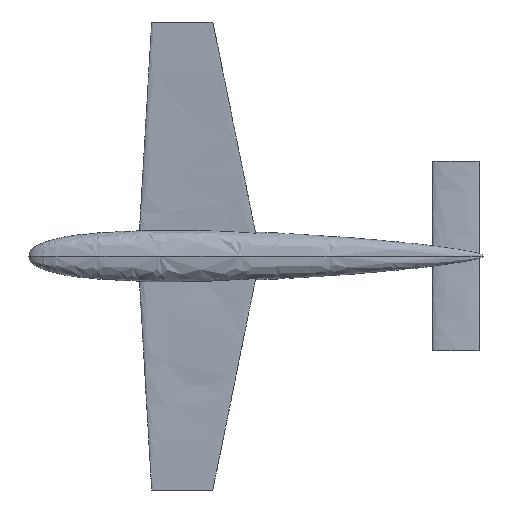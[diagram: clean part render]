
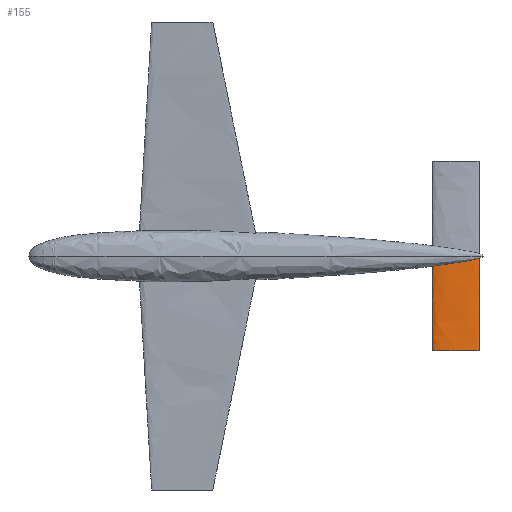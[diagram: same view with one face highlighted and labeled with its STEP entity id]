
A CAD part, front view. The second image highlights one B-rep face of the part: STEP entity #155.
In plain terms, the highlighted face is a extrusion surface.
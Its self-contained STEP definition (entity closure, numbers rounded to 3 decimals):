
#112=SURFACE_OF_LINEAR_EXTRUSION('',#330,#122);
#116=LINE('',#1662,#120);
#117=LINE('',#1663,#121);
#120=VECTOR('',#354,1.);
#121=VECTOR('',#355,1.);
#122=VECTOR('',#356,1.);
#138=FACE_OUTER_BOUND('',#196,.T.);
#155=ADVANCED_FACE('',(#138),#112,.T.);
#196=EDGE_LOOP('',(#234,#235,#236,#237));
#234=ORIENTED_EDGE('',*,*,#301,.F.);
#235=ORIENTED_EDGE('',*,*,#292,.T.);
#236=ORIENTED_EDGE('',*,*,#302,.F.);
#237=ORIENTED_EDGE('',*,*,#300,.F.);
#271=VERTEX_POINT('',#1029);
#272=VERTEX_POINT('',#1030);
#276=VERTEX_POINT('',#1655);
#277=VERTEX_POINT('',#1656);
#292=EDGE_CURVE('',#272,#271,#321,.T.);
#300=EDGE_CURVE('',#277,#276,#329,.T.);
#301=EDGE_CURVE('',#272,#277,#116,.T.);
#302=EDGE_CURVE('',#276,#271,#117,.T.);
#321=B_SPLINE_CURVE_WITH_KNOTS('',3,(#1031,#1032,#1033,#1034,#1035,#1036,
#1037,#1038,#1039,#1040,#1041,#1042,#1043,#1044,#1045,#1046,#1047,#1048,
#1049,#1050,#1051,#1052,#1053,#1054,#1055,#1056,#1057,#1058,#1059,#1060,
#1061,#1062,#1063,#1064,#1065,#1066,#1067,#1068,#1069,#1070,#1071,#1072,
#1073,#1074),.UNSPECIFIED.,.F.,.F.,(4,2,2,2,2,2,2,2,2,2,2,2,2,2,2,2,2,2,
2,2,2,4),(0.,0.002,0.004,0.008,
0.016,0.031,0.063,0.125,
0.25,0.375,0.5,0.625,
0.75,0.813,0.875,0.906,
0.938,0.953,0.969,0.984,0.992,1.),
 .UNSPECIFIED.);
#329=B_SPLINE_CURVE_WITH_KNOTS('',3,(#1657,#1658,#1659,#1660),
 .UNSPECIFIED.,.F.,.F.,(4,4),(0.,1.),.UNSPECIFIED.);
#330=B_SPLINE_CURVE_WITH_KNOTS('',3,(#1664,#1665,#1666,#1667),
 .UNSPECIFIED.,.F.,.F.,(4,4),(0.,1.),.UNSPECIFIED.);
#354=DIRECTION('',(0.,0.,-1.));
#355=DIRECTION('',(0.,0.,1.));
#356=DIRECTION('',(0.,0.,-1.));
#1029=CARTESIAN_POINT('',(3529.53,-2352.9,-172.557));
#1030=CARTESIAN_POINT('',(4309.53,-2352.9,-40.119));
#1031=CARTESIAN_POINT('',(4309.53,-2352.9,-40.119));
#1032=CARTESIAN_POINT('',(4309.53,-2353.439,-40.179));
#1033=CARTESIAN_POINT('',(4309.206,-2353.897,-40.322));
#1034=CARTESIAN_POINT('',(4308.488,-2354.628,-40.606));
#1035=CARTESIAN_POINT('',(4308.076,-2354.924,-40.755));
#1036=CARTESIAN_POINT('',(4306.783,-2355.739,-41.205));
#1037=CARTESIAN_POINT('',(4305.865,-2356.164,-41.505));
#1038=CARTESIAN_POINT('',(4303.075,-2357.331,-42.395));
#1039=CARTESIAN_POINT('',(4301.144,-2357.949,-42.98));
#1040=CARTESIAN_POINT('',(4295.308,-2359.65,-44.702));
#1041=CARTESIAN_POINT('',(4291.357,-2360.555,-45.806));
#1042=CARTESIAN_POINT('',(4279.435,-2363.057,-49.033));
#1043=CARTESIAN_POINT('',(4271.382,-2364.408,-51.07));
#1044=CARTESIAN_POINT('',(4247.147,-2368.137,-56.945));
#1045=CARTESIAN_POINT('',(4230.87,-2370.151,-60.553));
#1046=CARTESIAN_POINT('',(4181.874,-2375.665,-70.868));
#1047=CARTESIAN_POINT('',(4148.966,-2378.581,-77.07));
#1048=CARTESIAN_POINT('',(4083.019,-2383.674,-88.854));
#1049=CARTESIAN_POINT('',(4049.968,-2385.815,-94.417));
#1050=CARTESIAN_POINT('',(3983.77,-2389.419,-105.188));
#1051=CARTESIAN_POINT('',(3950.621,-2390.879,-110.392));
#1052=CARTESIAN_POINT('',(3884.25,-2393.06,-120.604));
#1053=CARTESIAN_POINT('',(3851.033,-2393.783,-125.61));
#1054=CARTESIAN_POINT('',(3784.584,-2394.25,-135.532));
#1055=CARTESIAN_POINT('',(3751.342,-2394.012,-140.45));
#1056=CARTESIAN_POINT('',(3701.517,-2392.433,-147.824));
#1057=CARTESIAN_POINT('',(3684.911,-2391.7,-150.282));
#1058=CARTESIAN_POINT('',(3651.745,-2389.604,-155.202));
#1059=CARTESIAN_POINT('',(3635.173,-2388.253,-157.666));
#1060=CARTESIAN_POINT('',(3610.416,-2385.371,-161.357));
#1061=CARTESIAN_POINT('',(3602.176,-2384.265,-162.587));
#1062=CARTESIAN_POINT('',(3585.773,-2381.595,-165.035));
#1063=CARTESIAN_POINT('',(3577.599,-2380.04,-166.255));
#1064=CARTESIAN_POINT('',(3565.488,-2377.071,-168.05));
#1065=CARTESIAN_POINT('',(3561.473,-2375.972,-168.642));
#1066=CARTESIAN_POINT('',(3553.55,-2373.43,-169.799));
#1067=CARTESIAN_POINT('',(3549.628,-2371.991,-170.366));
#1068=CARTESIAN_POINT('',(3542.081,-2368.497,-171.424));
#1069=CARTESIAN_POINT('',(3538.395,-2366.46,-171.927));
#1070=CARTESIAN_POINT('',(3533.669,-2362.315,-172.478));
#1071=CARTESIAN_POINT('',(3532.233,-2360.726,-172.625));
#1072=CARTESIAN_POINT('',(3530.156,-2357.11,-172.746));
#1073=CARTESIAN_POINT('',(3529.53,-2355.026,-172.713));
#1074=CARTESIAN_POINT('',(3529.53,-2352.9,-172.557));
#1655=CARTESIAN_POINT('',(3529.53,-2352.9,-1600.));
#1656=CARTESIAN_POINT('',(4309.53,-2352.9,-1600.));
#1657=CARTESIAN_POINT('',(4309.53,-2352.9,-1600.));
#1658=CARTESIAN_POINT('',(4309.53,-2378.9,-1600.));
#1659=CARTESIAN_POINT('',(3529.53,-2430.9,-1600.));
#1660=CARTESIAN_POINT('',(3529.53,-2352.9,-1600.));
#1662=CARTESIAN_POINT('',(4309.53,-2352.9,-1600.));
#1663=CARTESIAN_POINT('',(3529.53,-2352.9,1600.));
#1664=CARTESIAN_POINT('',(4309.53,-2352.9,1600.));
#1665=CARTESIAN_POINT('',(4309.53,-2378.9,1600.));
#1666=CARTESIAN_POINT('',(3529.53,-2430.9,1600.));
#1667=CARTESIAN_POINT('',(3529.53,-2352.9,1600.));
